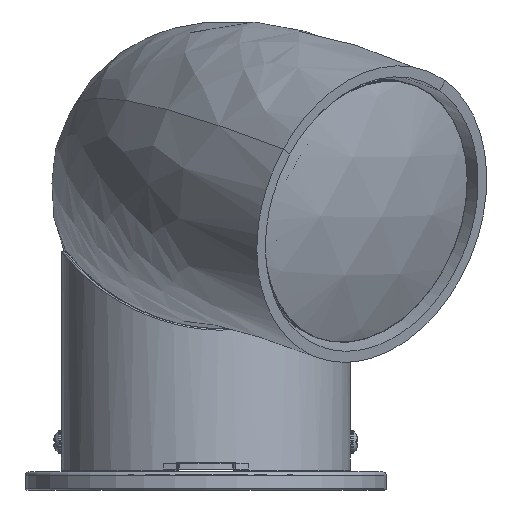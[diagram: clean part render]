
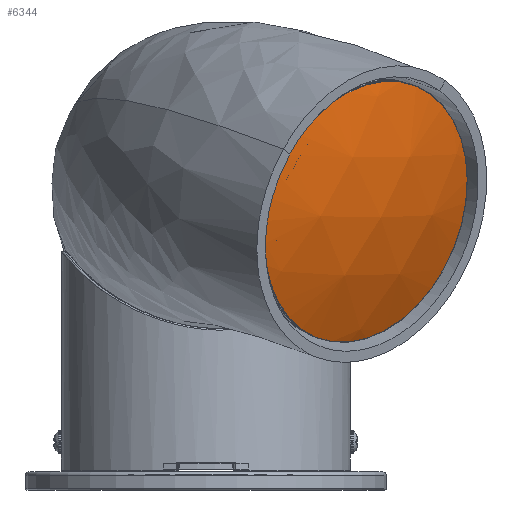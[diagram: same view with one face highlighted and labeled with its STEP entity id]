
A CAD part, front view. The second image highlights one B-rep face of the part: STEP entity #6344.
In plain terms, the highlighted spherical face has radius 148.45 mm.
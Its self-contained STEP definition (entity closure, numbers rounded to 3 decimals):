
#362=SPHERICAL_SURFACE('',#7135,148.45);
#1400=FACE_OUTER_BOUND('',#1821,.T.);
#1821=EDGE_LOOP('',(#5778));
#2477=CIRCLE('',#7133,47.538);
#3031=VERTEX_POINT('',#18749);
#3951=EDGE_CURVE('',#3031,#3031,#2477,.T.);
#5778=ORIENTED_EDGE('',*,*,#3951,.F.);
#6344=ADVANCED_FACE('',(#1400),#362,.T.);
#7133=AXIS2_PLACEMENT_3D('',#18750,#8838,#8839);
#7135=AXIS2_PLACEMENT_3D('',#18752,#8842,#8843);
#8838=DIRECTION('center_axis',(0.,-1.,0.));
#8839=DIRECTION('ref_axis',(1.,0.,0.));
#8842=DIRECTION('center_axis',(0.,0.,1.));
#8843=DIRECTION('ref_axis',(1.,0.,0.));
#18749=CARTESIAN_POINT('',(0.,85.147,-47.538));
#18750=CARTESIAN_POINT('Origin',(0.,85.147,
0.));
#18752=CARTESIAN_POINT('Origin',(0.,-55.486,
0.));
